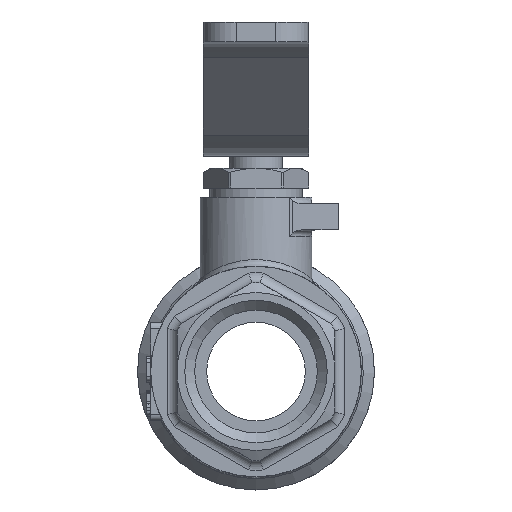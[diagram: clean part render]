
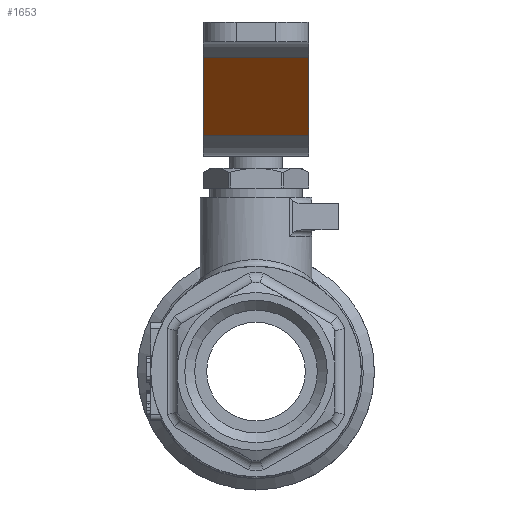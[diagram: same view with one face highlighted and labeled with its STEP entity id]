
A CAD part, left-side view. The second image highlights one B-rep face of the part: STEP entity #1653.
In plain terms, the highlighted planar face has unit normal (-0.707, 0, -0.707) as drawn and (0, 0.707, -0.707) by its records, which use the part's own axes.
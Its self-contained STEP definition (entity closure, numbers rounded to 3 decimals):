
#1653=ADVANCED_FACE('',(#5286),#5288,.F.);
#5286=FACE_BOUND('',#5287,.T.);
#5287=EDGE_LOOP('',(#8619,#8620,#8621,#8622));
#5288=PLANE('',#5289);
#5289=AXIS2_PLACEMENT_3D('',#5290,#5291,#5292);
#5290=CARTESIAN_POINT('',(0.,6.184,-10.373));
#5291=DIRECTION('',(0.,-0.707,0.707));
#5292=DIRECTION('',(0.,0.707,0.707));
#8619=ORIENTED_EDGE('',*,*,#10036,.F.);
#8620=ORIENTED_EDGE('',*,*,#10030,.F.);
#8621=ORIENTED_EDGE('',*,*,#10028,.T.);
#8622=ORIENTED_EDGE('',*,*,#10035,.F.);
#10028=EDGE_CURVE('',#12109,#12117,#12120,.T.);
#10030=EDGE_CURVE('',#12109,#12121,#12123,.T.);
#10035=EDGE_CURVE('',#12129,#12117,#12131,.T.);
#10036=EDGE_CURVE('',#12121,#12129,#12132,.T.);
#12109=VERTEX_POINT('',#18929);
#12117=VERTEX_POINT('',#18948);
#12120=LINE('',#18956,#18957);
#12121=VERTEX_POINT('',#18959);
#12123=LINE('',#18963,#18964);
#12129=VERTEX_POINT('',#18979);
#12131=LINE('',#18983,#18984);
#12132=LINE('',#18986,#18987);
#18929=CARTESIAN_POINT('',(-8.,31.613,15.057));
#18948=CARTESIAN_POINT('',(8.,31.613,15.057));
#18956=CARTESIAN_POINT('',(-8.,31.613,15.057));
#18957=VECTOR('',#18958,1.);
#18958=DIRECTION('',(1.,0.,0.));
#18959=CARTESIAN_POINT('',(-8.,19.778,3.222));
#18963=CARTESIAN_POINT('',(-8.,31.613,15.057));
#18964=VECTOR('',#18965,1.);
#18965=DIRECTION('',(0.,-0.707,-0.707));
#18979=CARTESIAN_POINT('',(8.,19.778,3.222));
#18983=CARTESIAN_POINT('',(8.,19.778,3.222));
#18984=VECTOR('',#18985,1.);
#18985=DIRECTION('',(0.,0.707,0.707));
#18986=CARTESIAN_POINT('',(-8.,19.778,3.222));
#18987=VECTOR('',#18988,1.);
#18988=DIRECTION('',(1.,0.,0.));
